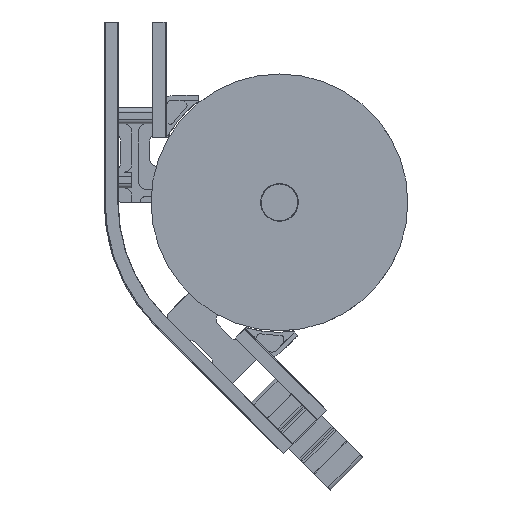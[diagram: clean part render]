
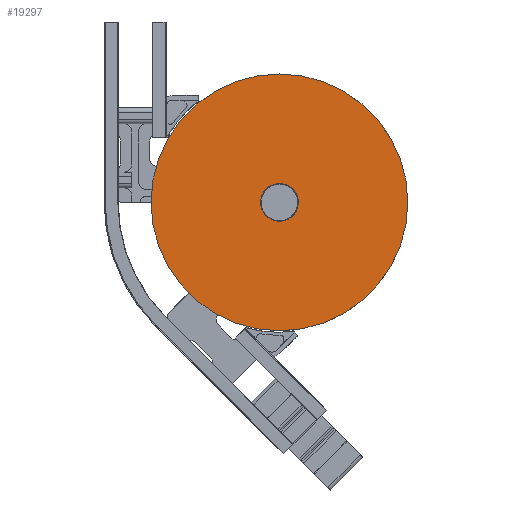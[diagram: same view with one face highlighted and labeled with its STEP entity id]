
A CAD part, front view. The second image highlights one B-rep face of the part: STEP entity #19297.
In plain terms, the highlighted planar face has unit normal (0, -1, 0).
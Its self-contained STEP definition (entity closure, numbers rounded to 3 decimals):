
#3624 = CIRCLE ( 'NONE', #38695, 26. ) ;
#3625 = CIRCLE ( 'NONE', #38696, 26. ) ;
#3627 = CIRCLE ( 'NONE', #38697, 178. ) ;
#3630 = CIRCLE ( 'NONE', #38698, 178. ) ;
#11112 = PLANE ( 'NONE',  #24698 ) ;
#11113 = CARTESIAN_POINT ( 'NONE',  ( 26., -88.7, 0. ) ) ;
#11114 = DIRECTION ( 'NONE',  ( 0., -1., 0. ) ) ;
#11116 = DIRECTION ( 'NONE',  ( 1., 0., 0. ) ) ;
#12630 = ORIENTED_EDGE ( 'NONE', *, *, #22852, .T. ) ;
#12631 = ORIENTED_EDGE ( 'NONE', *, *, #22850, .T. ) ;
#12632 = ORIENTED_EDGE ( 'NONE', *, *, #22849, .F. ) ;
#12633 = ORIENTED_EDGE ( 'NONE', *, *, #22848, .F. ) ;
#19297 = ADVANCED_FACE ( 'NONE', ( #29966, #29967 ), #11112, .T. ) ;
#22848 = EDGE_CURVE ( 'NONE', #39966, #39965, #3624, .T. ) ;
#22849 = EDGE_CURVE ( 'NONE', #39965, #39966, #3625, .T. ) ;
#22850 = EDGE_CURVE ( 'NONE', #39849, #39963, #3627, .T. ) ;
#22852 = EDGE_CURVE ( 'NONE', #39963, #39849, #3630, .T. ) ;
#24698 = AXIS2_PLACEMENT_3D ( 'NONE', #11113, #11114, #11116 ) ;
#29966 = FACE_OUTER_BOUND ( 'NONE', #32060, .T. ) ;
#29967 = FACE_BOUND ( 'NONE', #32059, .T. ) ;
#32059 = EDGE_LOOP ( 'NONE', ( #12632, #12633 ) ) ;
#32060 = EDGE_LOOP ( 'NONE', ( #12630, #12631 ) ) ;
#34268 = CARTESIAN_POINT ( 'NONE',  ( 0., -88.7, 0. ) ) ;
#34269 = DIRECTION ( 'NONE',  ( 0., -1., 0. ) ) ;
#34270 = DIRECTION ( 'NONE',  ( 1., 0., 0. ) ) ;
#34271 = CARTESIAN_POINT ( 'NONE',  ( 0., -88.7, 0. ) ) ;
#34272 = DIRECTION ( 'NONE',  ( 0., -1., 0. ) ) ;
#34273 = DIRECTION ( 'NONE',  ( 1., 0., 0. ) ) ;
#34274 = CARTESIAN_POINT ( 'NONE',  ( 0., -88.7, 0. ) ) ;
#34275 = DIRECTION ( 'NONE',  ( 0., -1., 0. ) ) ;
#34276 = DIRECTION ( 'NONE',  ( 1., 0., 0. ) ) ;
#34279 = CARTESIAN_POINT ( 'NONE',  ( 0., -88.7, 0. ) ) ;
#34280 = DIRECTION ( 'NONE',  ( 0., -1., 0. ) ) ;
#34281 = DIRECTION ( 'NONE',  ( 1., 0., 0. ) ) ;
#34934 = CARTESIAN_POINT ( 'NONE',  ( -178., -88.7, 0. ) ) ;
#35048 = CARTESIAN_POINT ( 'NONE',  ( 178., -88.7, 0. ) ) ;
#35050 = CARTESIAN_POINT ( 'NONE',  ( 26., -88.7, 0. ) ) ;
#35051 = CARTESIAN_POINT ( 'NONE',  ( -26., -88.7, 0. ) ) ;
#38695 = AXIS2_PLACEMENT_3D ( 'NONE', #34268, #34269, #34270 ) ;
#38696 = AXIS2_PLACEMENT_3D ( 'NONE', #34271, #34272, #34273 ) ;
#38697 = AXIS2_PLACEMENT_3D ( 'NONE', #34274, #34275, #34276 ) ;
#38698 = AXIS2_PLACEMENT_3D ( 'NONE', #34279, #34280, #34281 ) ;
#39849 = VERTEX_POINT ( 'NONE', #34934 ) ;
#39963 = VERTEX_POINT ( 'NONE', #35048 ) ;
#39965 = VERTEX_POINT ( 'NONE', #35050 ) ;
#39966 = VERTEX_POINT ( 'NONE', #35051 ) ;
